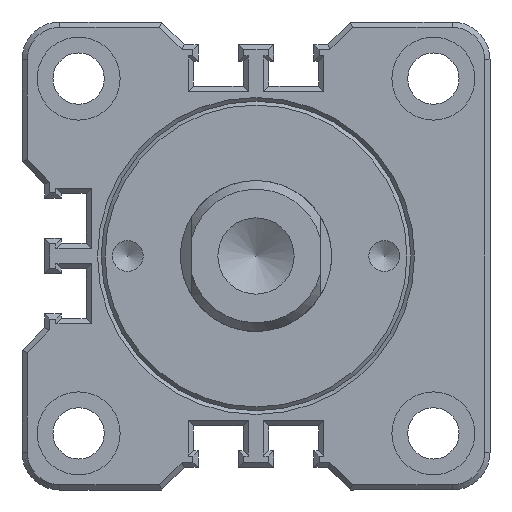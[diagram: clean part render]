
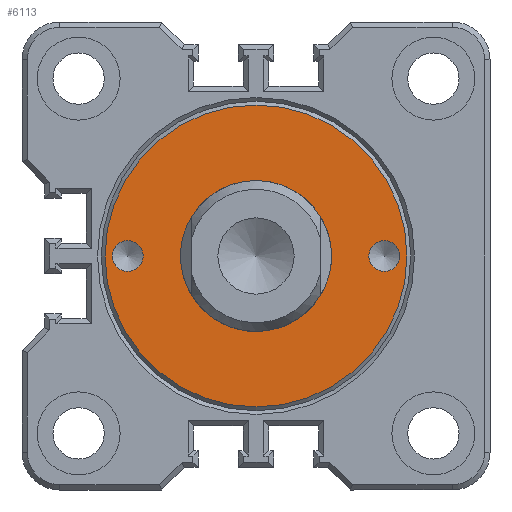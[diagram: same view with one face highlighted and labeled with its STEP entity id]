
A CAD part, front view. The second image highlights one B-rep face of the part: STEP entity #6113.
In plain terms, the highlighted planar face has unit normal (0, -1, 0).
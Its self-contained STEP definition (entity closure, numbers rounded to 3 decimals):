
#1098=PLANE('',#6446);
#1763=ORIENTED_EDGE('',*,*,#2818,.T.);
#1764=ORIENTED_EDGE('',*,*,#2817,.F.);
#1765=ORIENTED_EDGE('',*,*,#2819,.T.);
#1766=ORIENTED_EDGE('',*,*,#2816,.T.);
#2816=EDGE_CURVE('',#3327,#3327,#3423,.T.);
#2817=EDGE_CURVE('',#3328,#3328,#3424,.T.);
#2818=EDGE_CURVE('',#3329,#3329,#3425,.T.);
#2819=EDGE_CURVE('',#3330,#3330,#3426,.T.);
#3327=VERTEX_POINT('',#8594);
#3328=VERTEX_POINT('',#8597);
#3329=VERTEX_POINT('',#8600);
#3330=VERTEX_POINT('',#8602);
#3423=CIRCLE('',#6443,20.);
#3424=CIRCLE('',#6445,10.);
#3425=CIRCLE('',#6447,2.05);
#3426=CIRCLE('',#6448,2.05);
#3587=EDGE_LOOP('',(#1763));
#3588=EDGE_LOOP('',(#1764));
#3589=EDGE_LOOP('',(#1765));
#3590=EDGE_LOOP('',(#1766));
#3907=FACE_BOUND('',#3587,.T.);
#3908=FACE_BOUND('',#3588,.T.);
#3909=FACE_BOUND('',#3589,.T.);
#3910=FACE_BOUND('',#3590,.T.);
#6113=ADVANCED_FACE('',(#3907,#3908,#3909,#3910),#1098,.T.);
#6443=AXIS2_PLACEMENT_3D('',#8593,#7270,#7271);
#6445=AXIS2_PLACEMENT_3D('',#8596,#7274,#7275);
#6446=AXIS2_PLACEMENT_3D('',#8598,#7276,#7277);
#6447=AXIS2_PLACEMENT_3D('',#8599,#7278,#7279);
#6448=AXIS2_PLACEMENT_3D('',#8601,#7280,#7281);
#7270=DIRECTION('',(0.,-1.,0.));
#7271=DIRECTION('',(0.,0.,-1.));
#7274=DIRECTION('',(0.,-1.,0.));
#7275=DIRECTION('',(1.,0.,0.));
#7276=DIRECTION('',(0.,-1.,0.));
#7277=DIRECTION('',(1.,0.,0.));
#7278=DIRECTION('',(0.,1.,0.));
#7279=DIRECTION('',(0.,0.,-1.));
#7280=DIRECTION('',(0.,1.,0.));
#7281=DIRECTION('',(0.,0.,-1.));
#8593=CARTESIAN_POINT('',(0.,0.,0.));
#8594=CARTESIAN_POINT('',(0.,0.,-20.));
#8596=CARTESIAN_POINT('',(0.,0.,0.));
#8597=CARTESIAN_POINT('',(10.,0.,0.));
#8598=CARTESIAN_POINT('',(-26.,0.,26.));
#8599=CARTESIAN_POINT('',(17.,0.,0.));
#8600=CARTESIAN_POINT('',(17.,0.,-2.05));
#8601=CARTESIAN_POINT('',(-17.,0.,0.));
#8602=CARTESIAN_POINT('',(-17.,0.,-2.05));
